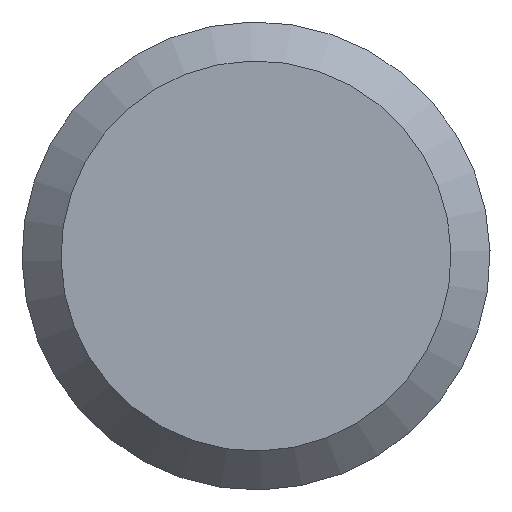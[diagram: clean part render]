
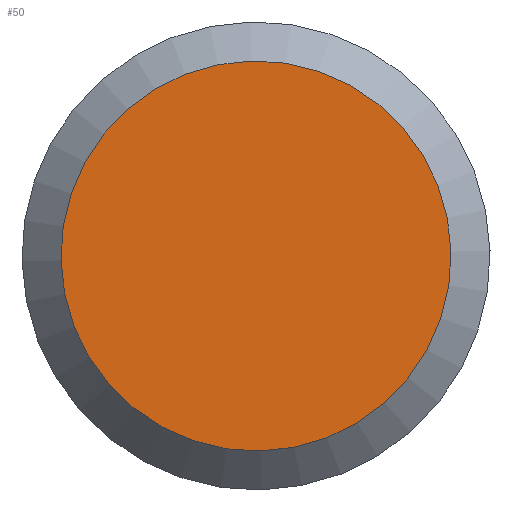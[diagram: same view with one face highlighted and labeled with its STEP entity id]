
A CAD part, left-side view. The second image highlights one B-rep face of the part: STEP entity #50.
In plain terms, the highlighted planar face has unit normal (-1, 0, 0).
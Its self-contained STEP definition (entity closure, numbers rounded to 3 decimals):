
#42=PLANE('',#113);
#44=FACE_OUTER_BOUND('',#66,.T.);
#50=ADVANCED_FACE('',(#44),#42,.T.);
#66=EDGE_LOOP('',(#74));
#74=ORIENTED_EDGE('',*,*,#80,.T.);
#76=VERTEX_POINT('',#144);
#80=EDGE_CURVE('',#76,#76,#99,.T.);
#99=CIRCLE('',#106,5.);
#106=AXIS2_PLACEMENT_3D('',#143,#122,#123);
#113=AXIS2_PLACEMENT_3D('',#153,#136,#137);
#122=DIRECTION('',(-1.,0.,0.));
#123=DIRECTION('',(0.,1.,-0.023));
#136=DIRECTION('',(-1.,0.,0.));
#137=DIRECTION('',(0.,1.,-0.023));
#143=CARTESIAN_POINT('',(47.,5470.,1090.));
#144=CARTESIAN_POINT('',(47.,5474.999,1089.887));
#153=CARTESIAN_POINT('',(47.,5470.,1090.));
